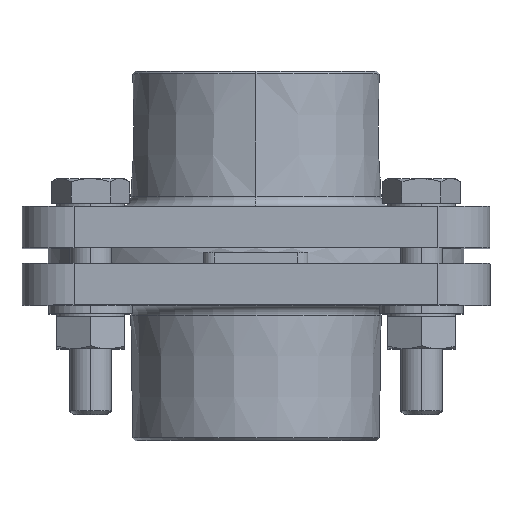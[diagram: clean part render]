
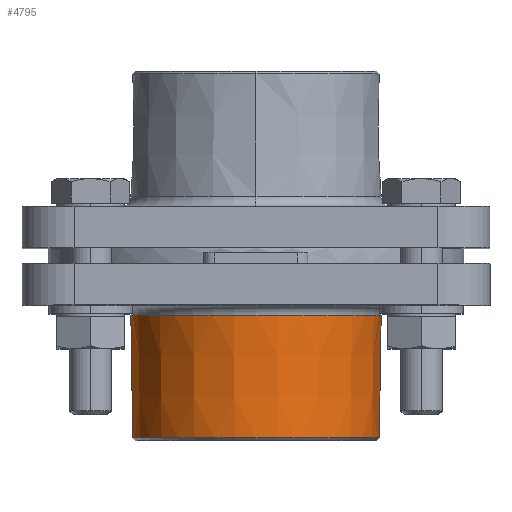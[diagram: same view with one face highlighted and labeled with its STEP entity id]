
A CAD part, top view. The second image highlights one B-rep face of the part: STEP entity #4795.
In plain terms, the highlighted conical face has half-angle 0.881 degrees and reference radius 24.07 mm.
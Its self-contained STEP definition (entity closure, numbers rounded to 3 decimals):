
#253 = AXIS2_PLACEMENT_3D ( 'NONE', #13511, #13500, #13519 ) ;
#286 = EDGE_LOOP ( 'NONE', ( #8130, #8131, #8132, #8133 ) ) ;
#537 = VERTEX_POINT ( 'NONE', #928 ) ;
#538 = VERTEX_POINT ( 'NONE', #929 ) ;
#558 = VERTEX_POINT ( 'NONE', #949 ) ;
#559 = VERTEX_POINT ( 'NONE', #950 ) ;
#709 = EDGE_CURVE ( 'NONE', #538, #537, #2320, .T. ) ;
#928 = CARTESIAN_POINT ( 'NONE',  ( 9.95, -24.102, 3.465 ) ) ;
#929 = CARTESIAN_POINT ( 'NONE',  ( -38.189, -24.102, 3.465 ) ) ;
#949 = CARTESIAN_POINT ( 'NONE',  ( -37.827, -47.625, 3.465 ) ) ;
#950 = CARTESIAN_POINT ( 'NONE',  ( 9.588, -47.625, 3.465 ) ) ;
#1243 = CARTESIAN_POINT ( 'NONE',  ( -14.119, -24.102, 3.465 ) ) ;
#1244 = DIRECTION ( 'NONE',  ( 0., 1., 0. ) ) ;
#1245 = DIRECTION ( 'NONE',  ( 1., 0., 0. ) ) ;
#2320 = CIRCLE ( 'NONE', #8724, 24.07 ) ;
#2944 = DIRECTION ( 'NONE',  ( 0.015, 1., 0. ) ) ;
#2945 = CARTESIAN_POINT ( 'NONE',  ( -38.189, -24.102, 3.465 ) ) ;
#2951 = CARTESIAN_POINT ( 'NONE',  ( 9.95, -24.102, 3.465 ) ) ;
#2953 = DIRECTION ( 'NONE',  ( -0.015, 1., 0. ) ) ;
#3045 = CARTESIAN_POINT ( 'NONE',  ( -14.119, -47.625, 3.465 ) ) ;
#3046 = DIRECTION ( 'NONE',  ( 0., 1., 0. ) ) ;
#3047 = DIRECTION ( 'NONE',  ( -1., 0., 0. ) ) ;
#4555 = AXIS2_PLACEMENT_3D ( 'NONE', #3045, #3046, #3047 ) ;
#4795 = ADVANCED_FACE ( 'NONE', ( #13164 ), #13172, .T. ) ;
#7818 = EDGE_CURVE ( 'NONE', #558, #538, #9230, .T. ) ;
#7820 = EDGE_CURVE ( 'NONE', #559, #537, #9237, .T. ) ;
#7853 = EDGE_CURVE ( 'NONE', #558, #559, #9281, .T. ) ;
#8130 = ORIENTED_EDGE ( 'NONE', *, *, #7818, .F. ) ;
#8131 = ORIENTED_EDGE ( 'NONE', *, *, #7853, .T. ) ;
#8132 = ORIENTED_EDGE ( 'NONE', *, *, #7820, .T. ) ;
#8133 = ORIENTED_EDGE ( 'NONE', *, *, #709, .F. ) ;
#8724 = AXIS2_PLACEMENT_3D ( 'NONE', #1243, #1244, #1245 ) ;
#9230 = LINE ( 'NONE', #2945, #9236 ) ;
#9236 = VECTOR ( 'NONE', #2953, 1000. ) ;
#9237 = LINE ( 'NONE', #2951, #9239 ) ;
#9239 = VECTOR ( 'NONE', #2944, 1000. ) ;
#9281 = CIRCLE ( 'NONE', #4555, 23.708 ) ;
#13164 = FACE_OUTER_BOUND ( 'NONE', #286, .T. ) ;
#13172 = CONICAL_SURFACE ( 'NONE', #253, 24.07, 0.015 ) ;
#13500 = DIRECTION ( 'NONE',  ( 0., 1., 0. ) ) ;
#13511 = CARTESIAN_POINT ( 'NONE',  ( -14.119, -24.102, 3.465 ) ) ;
#13519 = DIRECTION ( 'NONE',  ( 1., 0., 0. ) ) ;
